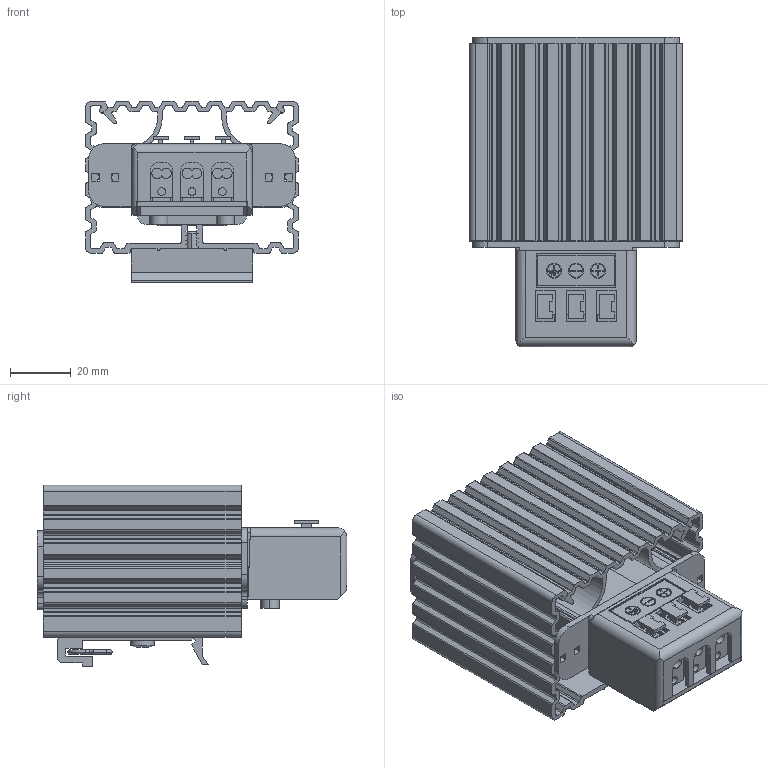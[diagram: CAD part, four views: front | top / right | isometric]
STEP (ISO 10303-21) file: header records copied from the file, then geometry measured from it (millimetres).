
FILE_DESCRIPTION (( 'STEP AP214' ), '1' );
FILE_NAME ('FLH 010-045.STEP', '2012-08-10T10:15:51', ( ' ' ), ( ' ' ), 'SwSTEP 2.0', 'SolidWorks 2011', '' );
FILE_SCHEMA (( 'AUTOMOTIVE_DESIGN' ));
Length unit declared in the file: millimetre
Products named in the file (14): 30130-100_Imported3; 30140-100_Imported4; Hauptprofil 02060004x_020600044 - 65mm; 30130-100_Imported2; 30130-100 Imported; FLH 010-045; Imported15; 30140-100_Imported16; 30140-100_Imported17; Imported12; Imported13; 30130-100_Imported14; 30140-100_Imported5; Einschubprofil 02060004x_020600041 - 65mm
Assembly tree (13 placements, depth 2):
  FLH 010-045
    Hauptprofil 02060004x_020600044 - 65mm
    30130-100_Imported2
    30140-100_Imported16
    30140-100_Imported5
    30130-100 Imported
    Imported12
    30140-100_Imported4
    30130-100_Imported14
    30130-100_Imported3
    Einschubprofil 02060004x_020600041 - 65mm
    Imported15
    Imported13
    30140-100_Imported17
Bounding box: 70 x 101.75 x 59.7 mm (x, y, z)
Volume: 81779.7 mm3; surface area: 106554.8 mm2
Topology: 12 solids, 18 shells, 1411 faces, 3962 edges, 2614 vertices
Faces by surface type: plane 953, cylinder 433, bspline 25
Entity records: 46160 total; most frequent: CARTESIAN_POINT 8447, ORIENTED_EDGE 7884, DIRECTION 7633, EDGE_CURVE 3962, VECTOR 3013, LINE 3013, VERTEX_POINT 2614, AXIS2_PLACEMENT_3D 2310
